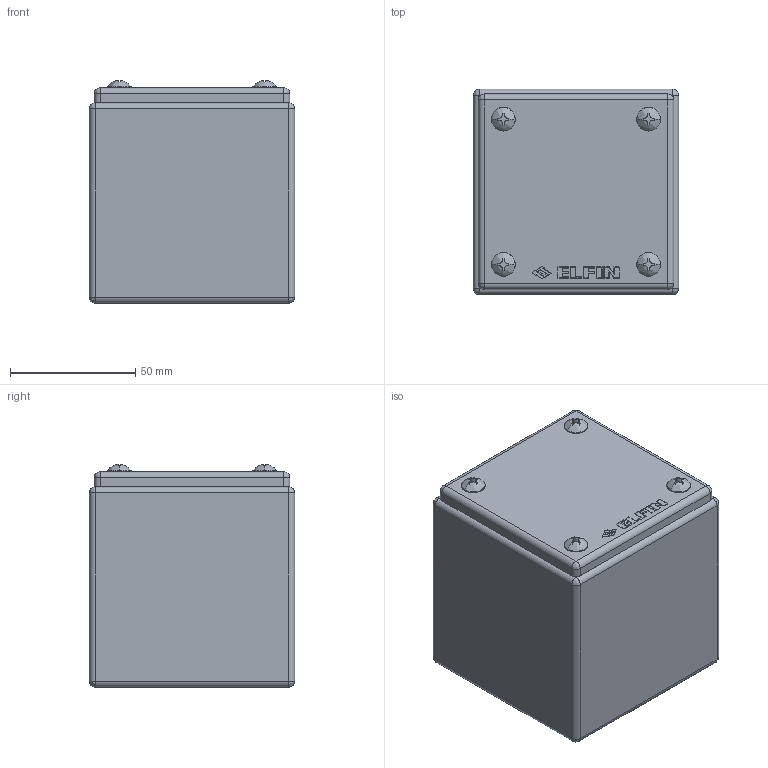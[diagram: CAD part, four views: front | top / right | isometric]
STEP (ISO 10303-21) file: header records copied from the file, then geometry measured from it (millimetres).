
FILE_DESCRIPTION (( 'STEP AP214' ), '1' );
FILE_NAME ('040X0808-8.STEP', '2025-05-07T14:22:29', ( '' ), ( '' ), 'SwSTEP 2.0', 'SolidWorks 2013', '' );
FILE_SCHEMA (( 'AUTOMOTIVE_DESIGN' ));
Length unit declared in the file: millimetre
Products named in the file (1): 040X0808-8
Bounding box: 82 x 82 x 88.8 mm (x, y, z)
Volume: 50371.2 mm3; surface area: 84668.5 mm2
Topology: 11 solids, 11 shells, 426 faces, 1025 edges, 615 vertices
Faces by surface type: plane 252, cylinder 100, bspline 48, cone 24, torus 2
Entity records: 17646 total; most frequent: CARTESIAN_POINT 3195, ORIENTED_EDGE 2002, DIRECTION 1946, EDGE_CURVE 1001, LINE 654, VECTOR 654, AXIS2_PLACEMENT_3D 646, VERTEX_POINT 615
